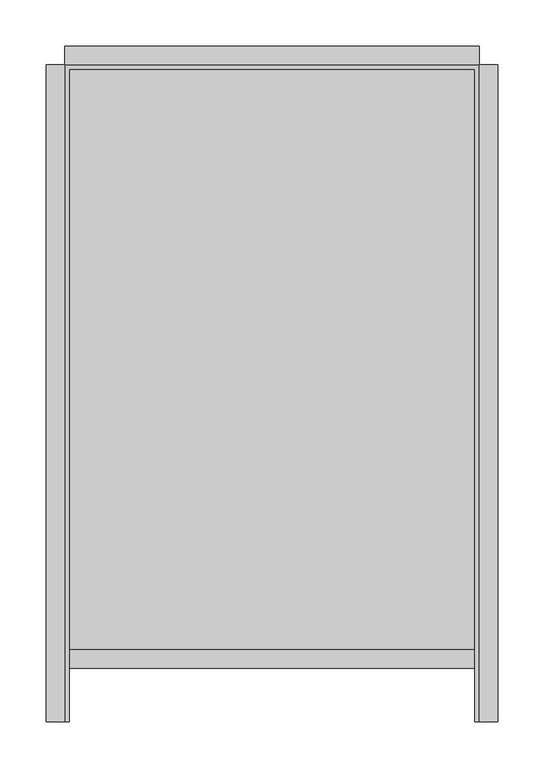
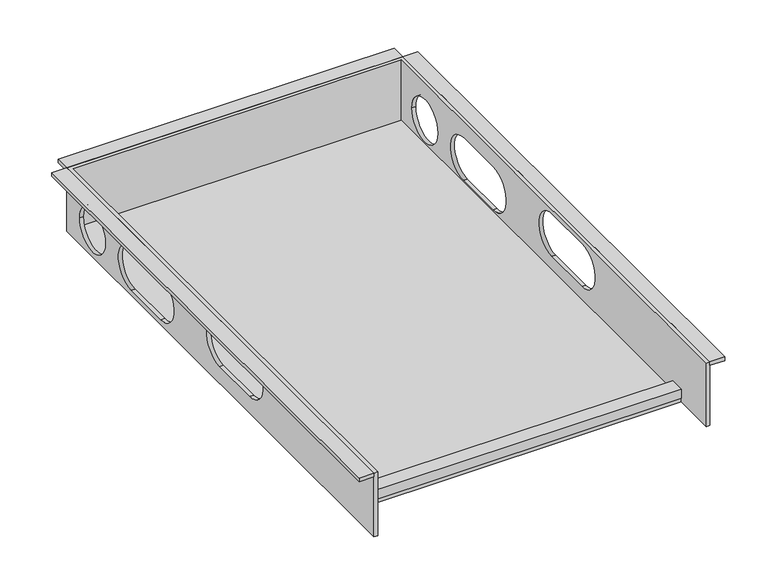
"""IFC4 building model written with IfcOpenShell, lengths in millimetres: valve geometry, Superpipe Manifold Cabinet Concealed Version : Superpipe Manifold Cabinet Concealed Version-3Way."""

from ifc_helpers import new_model, si_unit, frame, origin, place, context, project, spatial, polyline, circle_curve, outline, extrude, source, transform, mapped, element, save
from ifc_brep_helpers import plane_surface, revolved_surface, advanced_brep


def valve_6676fd30(model_context):
    return source(origin(), model_context, "Body", "SolidModel", [
        extrude(outline(polyline([(-298.5, -72.0341988), (-278.5, -72.0341988), (-278.5, -77.0341988), (-293.5, -77.0341988), (-293.5, -85.0), (-298.5, -85.0), (-298.5, -72.0341988)])), frame((-220.0, 0.0, 0.0), z_axis=(1.0, 0.0, 0.0), x_axis=(0.0, 1.0, 0.0)), (0.0, 0.0, 1.0), 440.0),
        extrude(outline(polyline([(245.0, -356.5), (225.0, -356.5), (225.0, 356.5), (245.0, 356.5), (245.0, -356.5)])), frame((0.0, 0.0, -5.0), z_axis=(0.0, 0.0, 1.0), x_axis=(1.0, 0.0, 0.0)), (0.0, 0.0, 1.0), 5.0),
        extrude(outline(polyline([(-225.0, -356.5), (-245.0, -356.5), (-245.0, 356.5), (-225.0, 356.5), (-225.0, -356.5)])), frame((0.0, 0.0, -5.0), z_axis=(0.0, 0.0, 1.0), x_axis=(1.0, 0.0, 0.0)), (0.0, 0.0, 1.0), 5.0),
        extrude(outline(polyline([(225.0, 376.5), (225.0, 356.5), (-225.0, 356.5), (-225.0, 376.5), (225.0, 376.5)])), frame((0.0, 0.0, -5.0), z_axis=(0.0, 0.0, 1.0), x_axis=(1.0, 0.0, 0.0)), (0.0, 0.0, 1.0), 5.0),
        advanced_brep(
        [(225.0, 356.5, 0.0), (-225.0, 356.5, 0.0), (-225.0, -356.5, 0.0), (-220.0, -356.5, 0.0), (-220.0, 351.5, 0.0), (220.0, 351.5, 0.0), (220.0, -356.5, 0.0), (225.0, -356.5, 0.0), (225.0, 356.5, -90.0), (225.0, -356.5, -90.0), (220.0, -356.5, -90.0), (220.0, -298.5, -90.0), (-220.0, -298.5, -90.0), (-220.0, -356.5, -90.0), (-225.0, -356.5, -90.0), (-225.0, 356.5, -90.0), (-225.0, 266.5, -52.5), (-225.0, 326.5, -52.5), (-225.0, 138.0, -82.5), (-225.0, 206.5, -82.5), (-225.0, 206.5, -22.5), (-225.0, 138.0, -22.5), (-225.0, -68.5, -66.0), (-225.0, 1.5, -66.0), (-225.0, 1.5, -6.0), (-225.0, -68.5, -6.0), (225.0, 326.5, -52.5), (225.0, 266.5, -52.5), (225.0, 206.5, -82.5), (225.0, 138.0, -82.5), (225.0, 138.0, -22.5), (225.0, 206.5, -22.5), (225.0, 1.5, -66.0), (225.0, -68.5, -66.0), (225.0, -68.5, -6.0), (225.0, 1.5, -6.0), (220.0, 351.5, -85.0), (-220.0, 351.5, -85.0), (-220.0, -298.5, -85.0), (220.0, -298.5, -85.0), (-220.0, 326.5, -52.5), (-220.0, 266.5, -52.5), (-220.0, 206.5, -82.5), (-220.0, 138.0, -82.5), (-220.0, 138.0, -22.5), (-220.0, 206.5, -22.5), (-220.0, 1.5, -66.0), (-220.0, -68.5, -66.0), (-220.0, -68.5, -6.0), (-220.0, 1.5, -6.0), (220.0, 266.5, -52.5), (220.0, 326.5, -52.5), (220.0, 138.0, -82.5), (220.0, 206.5, -82.5), (220.0, 206.5, -22.5), (220.0, 138.0, -22.5), (220.0, -68.5, -66.0), (220.0, 1.5, -66.0), (220.0, 1.5, -6.0), (220.0, -68.5, -6.0)],
        [
            (0, 1),
            (1, 2),
            (2, 3),
            (3, 4),
            (4, 5),
            (5, 6),
            (6, 7),
            (7, 0),
            (8, 9),
            (9, 10),
            (10, 11),
            (11, 12),
            (12, 13),
            (13, 14),
            (14, 15),
            (15, 8),
            (0, 8),
            (15, 1),
            (14, 2),
            (16, 17, circle_curve(frame((-225.0, 296.5, -52.5), z_axis=(1.0, 0.0, 0.0), x_axis=(0.0, -1.0, 0.0)), 30.0)),
            (17, 16, circle_curve(frame((-225.0, 296.5, -52.5), z_axis=(1.0, 0.0, 0.0), x_axis=(0.0, -1.0, 0.0)), 30.0)),
            (18, 19),
            (19, 20, circle_curve(frame((-225.0, 206.5, -52.5), z_axis=(1.0, 0.0, 0.0), x_axis=(0.0, -1.0, 0.0)), 30.0)),
            (20, 21),
            (21, 18, circle_curve(frame((-225.0, 138.0, -52.5), z_axis=(1.0, 0.0, 0.0), x_axis=(0.0, -1.0, 0.0)), 30.0)),
            (22, 23),
            (23, 24, circle_curve(frame((-225.0, 1.5, -36.0), z_axis=(1.0, 0.0, 0.0), x_axis=(0.0, -1.0, 0.0)), 30.0)),
            (24, 25),
            (25, 22, circle_curve(frame((-225.0, -68.5, -36.0), z_axis=(1.0, 0.0, 0.0), x_axis=(0.0, -1.0, 0.0)), 30.0)),
            (13, 3),
            (9, 7),
            (6, 10),
            (26, 27, circle_curve(frame((225.0, 296.5, -52.5), z_axis=(-1.0, 0.0, 0.0), x_axis=(0.0, -1.0, 0.0)), 30.0)),
            (27, 26, circle_curve(frame((225.0, 296.5, -52.5), z_axis=(-1.0, 0.0, 0.0), x_axis=(0.0, -1.0, 0.0)), 30.0)),
            (28, 29),
            (29, 30, circle_curve(frame((225.0, 138.0, -52.5), z_axis=(-1.0, 0.0, 0.0), x_axis=(0.0, -1.0, 0.0)), 30.0)),
            (30, 31),
            (31, 28, circle_curve(frame((225.0, 206.5, -52.5), z_axis=(-1.0, 0.0, 0.0), x_axis=(0.0, -1.0, 0.0)), 30.0)),
            (32, 33),
            (33, 34, circle_curve(frame((225.0, -68.5, -36.0), z_axis=(-1.0, 0.0, 0.0), x_axis=(0.0, -1.0, 0.0)), 30.0)),
            (34, 35),
            (35, 32, circle_curve(frame((225.0, 1.5, -36.0), z_axis=(-1.0, 0.0, 0.0), x_axis=(0.0, -1.0, 0.0)), 30.0)),
            (36, 37),
            (37, 38),
            (38, 39),
            (39, 36),
            (36, 5),
            (4, 37),
            (12, 38),
            (40, 41, circle_curve(frame((-220.0, 296.5, -52.5), z_axis=(-1.0, 0.0, 0.0), x_axis=(0.0, -1.0, 0.0)), 30.0)),
            (41, 40, circle_curve(frame((-220.0, 296.5, -52.5), z_axis=(-1.0, 0.0, 0.0), x_axis=(0.0, -1.0, 0.0)), 30.0)),
            (42, 43),
            (43, 44, circle_curve(frame((-220.0, 138.0, -52.5), z_axis=(-1.0, 0.0, 0.0), x_axis=(0.0, -1.0, 0.0)), 30.0)),
            (44, 45),
            (45, 42, circle_curve(frame((-220.0, 206.5, -52.5), z_axis=(-1.0, 0.0, 0.0), x_axis=(0.0, -1.0, 0.0)), 30.0)),
            (46, 47),
            (47, 48, circle_curve(frame((-220.0, -68.5, -36.0), z_axis=(-1.0, 0.0, 0.0), x_axis=(0.0, -1.0, 0.0)), 30.0)),
            (48, 49),
            (49, 46, circle_curve(frame((-220.0, 1.5, -36.0), z_axis=(-1.0, 0.0, 0.0), x_axis=(0.0, -1.0, 0.0)), 30.0)),
            (39, 11),
            (50, 51, circle_curve(frame((220.0, 296.5, -52.5), z_axis=(1.0, 0.0, 0.0), x_axis=(0.0, -1.0, 0.0)), 30.0)),
            (51, 50, circle_curve(frame((220.0, 296.5, -52.5), z_axis=(1.0, 0.0, 0.0), x_axis=(0.0, -1.0, 0.0)), 30.0)),
            (52, 53),
            (53, 54, circle_curve(frame((220.0, 206.5, -52.5), z_axis=(1.0, 0.0, 0.0), x_axis=(0.0, -1.0, 0.0)), 30.0)),
            (54, 55),
            (55, 52, circle_curve(frame((220.0, 138.0, -52.5), z_axis=(1.0, 0.0, 0.0), x_axis=(0.0, -1.0, 0.0)), 30.0)),
            (56, 57),
            (57, 58, circle_curve(frame((220.0, 1.5, -36.0), z_axis=(1.0, 0.0, 0.0), x_axis=(0.0, -1.0, 0.0)), 30.0)),
            (58, 59),
            (59, 56, circle_curve(frame((220.0, -68.5, -36.0), z_axis=(1.0, 0.0, 0.0), x_axis=(0.0, -1.0, 0.0)), 30.0)),
            (40, 17),
            (16, 41),
            (26, 51),
            (50, 27),
            (42, 19),
            (18, 43),
            (28, 53),
            (52, 29),
            (21, 44),
            (55, 30),
            (20, 45),
            (54, 31),
            (46, 23),
            (22, 47),
            (32, 57),
            (56, 33),
            (25, 48),
            (59, 34),
            (24, 49),
            (58, 35),
        ],
        [
            plane_surface(frame((-225.0, 356.5, 0.0), z_axis=(0.0, 0.0, 1.0), x_axis=(-1.0, 0.0, 0.0))),
            plane_surface(frame((-225.0, 356.5, -90.0), z_axis=(0.0, 0.0, -1.0), x_axis=(1.0, 0.0, 0.0))),
            plane_surface(frame((225.0, 356.5, 0.0), z_axis=(0.0, 1.0, 0.0), x_axis=(0.0, 0.0, -1.0))),
            plane_surface(frame((-225.0, 356.5, 0.0), z_axis=(-1.0, 0.0, 0.0), x_axis=(0.0, 0.0, -1.0))),
            plane_surface(frame((-225.0, -356.5, 0.0), z_axis=(0.0, -1.0, 0.0), x_axis=(0.0, 0.0, -1.0))),
            plane_surface(frame((225.0, -356.5, 0.0), z_axis=(1.0, 0.0, 0.0), x_axis=(0.0, 0.0, -1.0))),
            plane_surface(frame((-220.0, 351.5, -85.0), z_axis=(0.0, 0.0, 1.0), x_axis=(1.0, 0.0, 0.0))),
            plane_surface(frame((220.0, 351.5, 0.0), z_axis=(0.0, -1.0, 0.0), x_axis=(0.0, 0.0, -1.0))),
            plane_surface(frame((-220.0, 351.5, 0.0), z_axis=(1.0, 0.0, 0.0), x_axis=(0.0, 0.0, -1.0))),
            plane_surface(frame((220.0, -356.5, 0.0), z_axis=(-1.0, 0.0, 0.0), x_axis=(0.0, 0.0, -1.0))),
            plane_surface(frame((220.0, -298.5, -85.0), z_axis=(0.0, -1.0, 0.0), x_axis=(0.0, 0.0, -1.0))),
            revolved_surface(polyline([(-225.0, 266.5, -52.5), (-220.0, 266.5, -52.5)]), (225.0, 296.5, -52.5), (-1.0, 0.0, 0.0)),
            revolved_surface(polyline([(220.0, 266.5, -52.5), (225.0, 266.5, -52.5)]), (225.0, 296.5, -52.5), (-1.0, 0.0, 0.0)),
            plane_surface(frame((-225.0, 206.5, -82.5), z_axis=(0.0, 0.0, 1.0), x_axis=(1.0, 0.0, 0.0))),
            revolved_surface(polyline([(-225.0, 108.0, -52.5), (-220.0, 108.0, -52.5)]), (-225.0, 138.0, -52.5), (-1.0, 0.0, 0.0)),
            revolved_surface(polyline([(220.0, 108.0, -52.5), (225.0, 108.0, -52.5)]), (-225.0, 138.0, -52.5), (-1.0, 0.0, 0.0)),
            plane_surface(frame((-225.0, 138.0, -22.5), z_axis=(0.0, 0.0, -1.0), x_axis=(1.0, 0.0, 0.0))),
            revolved_surface(polyline([(-225.0, 176.5, -52.5), (-220.0, 176.5, -52.5)]), (-225.0, 206.5, -52.5), (-1.0, 0.0, 0.0)),
            revolved_surface(polyline([(220.0, 176.5, -52.5), (225.0, 176.5, -52.5)]), (-225.0, 206.5, -52.5), (-1.0, 0.0, 0.0)),
            plane_surface(frame((-225.0, 1.5, -66.0), z_axis=(0.0, 0.0, 1.0), x_axis=(1.0, 0.0, 0.0))),
            revolved_surface(polyline([(-225.0, -98.5, -36.0), (-220.0, -98.5, -36.0)]), (-225.0, -68.5, -36.0), (-1.0, 0.0, 0.0)),
            revolved_surface(polyline([(220.0, -98.5, -36.0), (225.0, -98.5, -36.0)]), (-225.0, -68.5, -36.0), (-1.0, 0.0, 0.0)),
            plane_surface(frame((-225.0, -68.5, -6.0), z_axis=(0.0, 0.0, -1.0), x_axis=(1.0, 0.0, 0.0))),
            revolved_surface(polyline([(-225.0, -28.5, -36.0), (-220.0, -28.5, -36.0)]), (-225.0, 1.5, -36.0), (-1.0, 0.0, 0.0)),
            revolved_surface(polyline([(220.0, -28.5, -36.0), (225.0, -28.5, -36.0)]), (-225.0, 1.5, -36.0), (-1.0, 0.0, 0.0)),
        ],
        [
            (0, [[1, 2, 3, 4, 5, 6, 7, 8]]),
            (1, [[9, 10, 11, 12, 13, 14, 15, 16]]),
            (2, [[-1, 17, -16, 18]]),
            (3, [[-2, -18, -15, 19], [20, 21], [22, 23, 24, 25], [26, 27, 28, 29]]),
            (4, [[-19, -14, 30, -3]]),
            (4, [[31, -7, 32, -10]]),
            (5, [[-8, -31, -9, -17], [33, 34], [35, 36, 37, 38], [39, 40, 41, 42]]),
            (6, [[43, 44, 45, 46]]),
            (7, [[-43, 47, -5, 48]]),
            (8, [[-48, -4, -30, -13, 49, -44], [50, 51], [52, 53, 54, 55], [56, 57, 58, 59]]),
            (9, [[-47, -46, 60, -11, -32, -6], [61, 62], [63, 64, 65, 66], [67, 68, 69, 70]]),
            (10, [[-49, -12, -60, -45]]),
            (11, [[71, -20, 72, -50]]),
            (12, [[73, -61, 74, -33]]),
            (11, [[-71, -51, -72, -21]]),
            (12, [[-73, -34, -74, -62]]),
            (13, [[75, -22, 76, -52]]),
            (13, [[77, -63, 78, -35]]),
            (14, [[-76, -25, 79, -53]]),
            (15, [[-78, -66, 80, -36]]),
            (16, [[-79, -24, 81, -54]]),
            (16, [[-80, -65, 82, -37]]),
            (17, [[-75, -55, -81, -23]]),
            (18, [[-77, -38, -82, -64]]),
            (19, [[83, -26, 84, -56]]),
            (19, [[85, -67, 86, -39]]),
            (20, [[-84, -29, 87, -57]]),
            (21, [[-86, -70, 88, -40]]),
            (22, [[-87, -28, 89, -58]]),
            (22, [[-88, -69, 90, -41]]),
            (23, [[-83, -59, -89, -27]]),
            (24, [[-85, -42, -90, -68]]),
        ],
    ),
    ])


if __name__ == "__main__":
    model = new_model("IFC4")
    model_context = context("Model", 3, world=origin())
    ifc_project = project(units=[si_unit("LENGTHUNIT", "METRE", prefix="MILLI")], contexts=[model_context])
    site = spatial("IfcSite", under=ifc_project)
    building = spatial("IfcBuilding", under=site)
    placement = place(None, origin())
    valve_shape = valve_6676fd30(model_context)
    element("IfcValve", 1, ObjectType="Superpipe Manifold Cabinet Concealed Version : Superpipe Manifold Cabinet Concealed Version-3Way", at=placement, inside=building, context=model_context, shape_type="MappedRepresentation", body=[
        mapped(valve_shape, transform((0.0, 0.0, 0.0), x_axis=(1.0, 0.0, 0.0), y_axis=(0.0, 1.0, 0.0), z_axis=(0.0, 0.0, 1.0))),
    ])
    save(model, "model.ifc")
